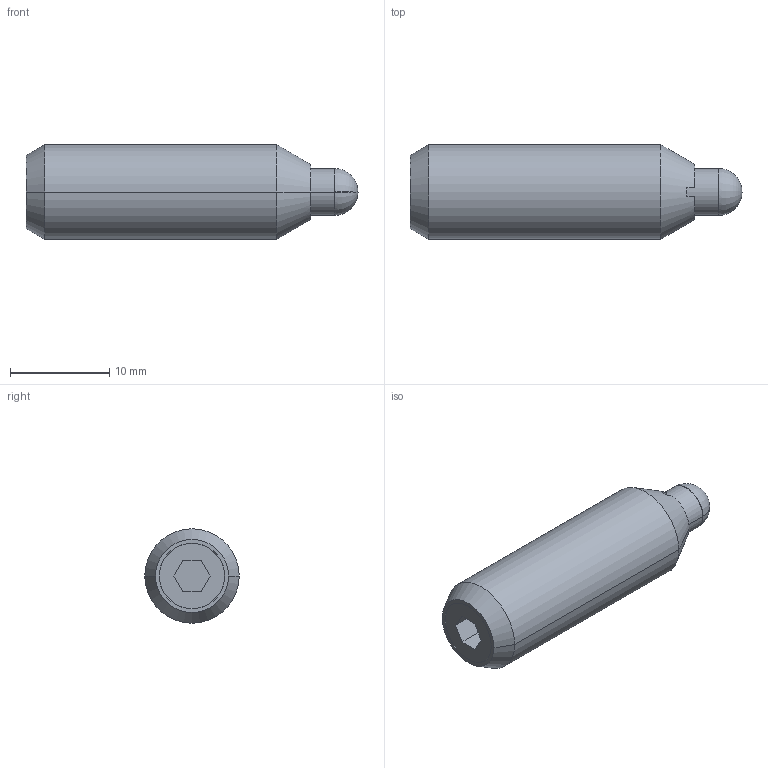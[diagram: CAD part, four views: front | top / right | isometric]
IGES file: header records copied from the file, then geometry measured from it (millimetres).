
Start section:  PTC IGES file: s58-3d.igs
Global section: file name: s58-3d.igs; native system: Pro/ENGINEER by Parametric Technology Corporation; preprocessor: 2002350; author: chant; organization: Unknown; date: 061031.140939; units: inch
Bounding box: 33.48 x 9.53 x 9.53 mm (x, y, z)
Surface area: 1114.3 mm2 (no closed solid volume)
Topology: 0 solids, 0 shells, 32 faces, 222 edges, 280 vertices
Faces by surface type: bspline 16, revolution 16
